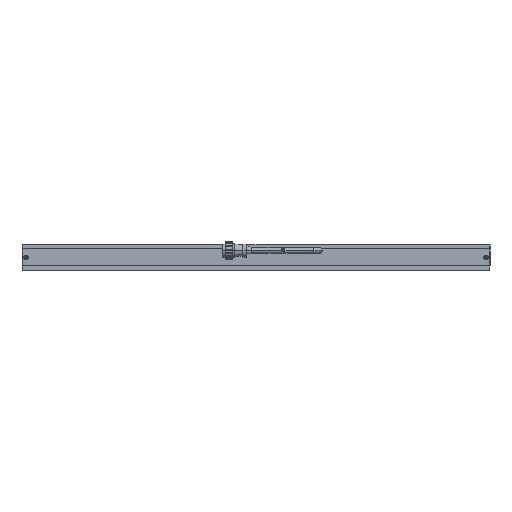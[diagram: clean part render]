
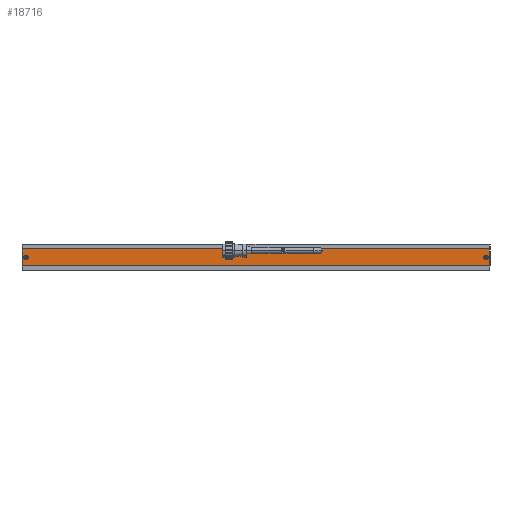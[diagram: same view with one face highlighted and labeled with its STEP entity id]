
A CAD part, left-side view. The second image highlights one B-rep face of the part: STEP entity #18716.
In plain terms, the highlighted planar face has unit normal (-1, 0, 0).
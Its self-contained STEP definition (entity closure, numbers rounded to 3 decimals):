
#365 = CARTESIAN_POINT ( 'NONE',  ( -207., 207., -2. ) ) ;
#391 = VERTEX_POINT ( 'NONE', #19744 ) ;
#883 = FACE_OUTER_BOUND ( 'NONE', #12594, .T. ) ;
#941 = EDGE_CURVE ( 'NONE', #2008, #8512, #10908, .T. ) ;
#1026 = ORIENTED_EDGE ( 'NONE', *, *, #19553, .T. ) ;
#1729 = ORIENTED_EDGE ( 'NONE', *, *, #16109, .F. ) ;
#1812 = CARTESIAN_POINT ( 'NONE',  ( -207., 0., -9.5 ) ) ;
#2008 = VERTEX_POINT ( 'NONE', #5033 ) ;
#2855 = CARTESIAN_POINT ( 'NONE',  ( -207., -58.25, -3.4 ) ) ;
#2877 = FACE_BOUND ( 'NONE', #7551, .T. ) ;
#2897 = DIRECTION ( 'NONE',  ( 1., 0., 0. ) ) ;
#2987 = DIRECTION ( 'NONE',  ( 0., 0., -1. ) ) ;
#3126 = CARTESIAN_POINT ( 'NONE',  ( -207., -205.5, -9.5 ) ) ;
#3200 = CARTESIAN_POINT ( 'NONE',  ( -207., -58.25, -3.4 ) ) ;
#3364 = EDGE_CURVE ( 'NONE', #5572, #19154, #4611, .T. ) ;
#3494 = PLANE ( 'NONE',  #10269 ) ;
#3666 = DIRECTION ( 'NONE',  ( -1., 0., 0. ) ) ;
#4344 = EDGE_CURVE ( 'NONE', #11292, #2008, #19353, .T. ) ;
#4374 = VECTOR ( 'NONE', #7656, 1000. ) ;
#4476 = ORIENTED_EDGE ( 'NONE', *, *, #941, .T. ) ;
#4610 = LINE ( 'NONE', #18348, #7374 ) ;
#4611 = CIRCLE ( 'NONE', #19621, 2. ) ;
#4871 = VERTEX_POINT ( 'NONE', #7064 ) ;
#4917 = CARTESIAN_POINT ( 'NONE',  ( -207., -201.5, -9.5 ) ) ;
#5033 = CARTESIAN_POINT ( 'NONE',  ( -207., 206.5, -17. ) ) ;
#5421 = DIRECTION ( 'NONE',  ( 0., 0., 1. ) ) ;
#5426 = ORIENTED_EDGE ( 'NONE', *, *, #16356, .F. ) ;
#5572 = VERTEX_POINT ( 'NONE', #4917 ) ;
#5658 = EDGE_CURVE ( 'NONE', #4871, #9804, #14040, .T. ) ;
#5877 = CARTESIAN_POINT ( 'NONE',  ( -207., -53.75, -3.4 ) ) ;
#6128 = DIRECTION ( 'NONE',  ( -1., 0., 0. ) ) ;
#6136 = DIRECTION ( 'NONE',  ( 0., 1., 0. ) ) ;
#6465 = DIRECTION ( 'NONE',  ( 0., 1., 0. ) ) ;
#6588 = VECTOR ( 'NONE', #7297, 1000. ) ;
#6821 = AXIS2_PLACEMENT_3D ( 'NONE', #13967, #7606, #18839 ) ;
#6908 = LINE ( 'NONE', #12435, #4374 ) ;
#7064 = CARTESIAN_POINT ( 'NONE',  ( -207., -206.5, -2. ) ) ;
#7067 = EDGE_CURVE ( 'NONE', #19154, #5572, #9986, .T. ) ;
#7297 = DIRECTION ( 'NONE',  ( 0., 0., -1. ) ) ;
#7374 = VECTOR ( 'NONE', #5421, 1000. ) ;
#7551 = EDGE_LOOP ( 'NONE', ( #5426, #1729 ) ) ;
#7606 = DIRECTION ( 'NONE',  ( -1., 0., 0. ) ) ;
#7656 = DIRECTION ( 'NONE',  ( 0., 0., 1. ) ) ;
#7864 = VECTOR ( 'NONE', #20339, 1000. ) ;
#8023 = CIRCLE ( 'NONE', #12343, 2. ) ;
#8447 = VERTEX_POINT ( 'NONE', #10598 ) ;
#8512 = VERTEX_POINT ( 'NONE', #12493 ) ;
#8542 = DIRECTION ( 'NONE',  ( 0., 1., 0. ) ) ;
#8552 = VERTEX_POINT ( 'NONE', #2855 ) ;
#8925 = FACE_BOUND ( 'NONE', #13579, .T. ) ;
#9008 = ORIENTED_EDGE ( 'NONE', *, *, #11710, .T. ) ;
#9804 = VERTEX_POINT ( 'NONE', #19473 ) ;
#9810 = VECTOR ( 'NONE', #18005, 1000. ) ;
#9986 = CIRCLE ( 'NONE', #6821, 2. ) ;
#10141 = VERTEX_POINT ( 'NONE', #5877 ) ;
#10269 = AXIS2_PLACEMENT_3D ( 'NONE', #1812, #14724, #6465 ) ;
#10598 = CARTESIAN_POINT ( 'NONE',  ( -207., -53.75, -2. ) ) ;
#10908 = LINE ( 'NONE', #10995, #16884 ) ;
#10995 = CARTESIAN_POINT ( 'NONE',  ( -207., 207., -17. ) ) ;
#11292 = VERTEX_POINT ( 'NONE', #15792 ) ;
#11383 = ORIENTED_EDGE ( 'NONE', *, *, #12362, .T. ) ;
#11626 = CARTESIAN_POINT ( 'NONE',  ( -207., 203.5, -9.5 ) ) ;
#11666 = LINE ( 'NONE', #3200, #16645 ) ;
#11710 = EDGE_CURVE ( 'NONE', #10141, #8447, #4610, .T. ) ;
#12343 = AXIS2_PLACEMENT_3D ( 'NONE', #11626, #3666, #8542 ) ;
#12362 = EDGE_CURVE ( 'NONE', #8447, #11292, #14604, .T. ) ;
#12435 = CARTESIAN_POINT ( 'NONE',  ( -207., -206.5, -2. ) ) ;
#12468 = CARTESIAN_POINT ( 'NONE',  ( -207., -203.5, -9.5 ) ) ;
#12493 = CARTESIAN_POINT ( 'NONE',  ( -207., -206.5, -17. ) ) ;
#12594 = EDGE_LOOP ( 'NONE', ( #1026, #9008, #11383, #20265, #4476, #15766, #13473, #18546 ) ) ;
#12687 = DIRECTION ( 'NONE',  ( -1., 0., 0. ) ) ;
#13473 = ORIENTED_EDGE ( 'NONE', *, *, #5658, .T. ) ;
#13579 = EDGE_LOOP ( 'NONE', ( #15312, #13615 ) ) ;
#13615 = ORIENTED_EDGE ( 'NONE', *, *, #7067, .F. ) ;
#13776 = CIRCLE ( 'NONE', #14466, 2. ) ;
#13878 = CIRCLE ( 'NONE', #19377, 2.25 ) ;
#13967 = CARTESIAN_POINT ( 'NONE',  ( -207., -203.5, -9.5 ) ) ;
#14040 = LINE ( 'NONE', #365, #9810 ) ;
#14466 = AXIS2_PLACEMENT_3D ( 'NONE', #15733, #12687, #15879 ) ;
#14604 = LINE ( 'NONE', #15611, #7864 ) ;
#14724 = DIRECTION ( 'NONE',  ( -1., 0., 0. ) ) ;
#15135 = CARTESIAN_POINT ( 'NONE',  ( -207., 206.5, -17. ) ) ;
#15312 = ORIENTED_EDGE ( 'NONE', *, *, #3364, .F. ) ;
#15393 = CARTESIAN_POINT ( 'NONE',  ( -207., -56., -3.4 ) ) ;
#15611 = CARTESIAN_POINT ( 'NONE',  ( -207., 207., -2. ) ) ;
#15733 = CARTESIAN_POINT ( 'NONE',  ( -207., 203.5, -9.5 ) ) ;
#15766 = ORIENTED_EDGE ( 'NONE', *, *, #18966, .T. ) ;
#15792 = CARTESIAN_POINT ( 'NONE',  ( -207., 206.5, -2. ) ) ;
#15879 = DIRECTION ( 'NONE',  ( 0., 1., 0. ) ) ;
#16109 = EDGE_CURVE ( 'NONE', #391, #17504, #13776, .T. ) ;
#16356 = EDGE_CURVE ( 'NONE', #17504, #391, #8023, .T. ) ;
#16645 = VECTOR ( 'NONE', #2987, 1000. ) ;
#16884 = VECTOR ( 'NONE', #18994, 1000. ) ;
#17504 = VERTEX_POINT ( 'NONE', #18521 ) ;
#18005 = DIRECTION ( 'NONE',  ( 0., 1., 0. ) ) ;
#18348 = CARTESIAN_POINT ( 'NONE',  ( -207., -53.75, -2. ) ) ;
#18521 = CARTESIAN_POINT ( 'NONE',  ( -207., 205.5, -9.5 ) ) ;
#18546 = ORIENTED_EDGE ( 'NONE', *, *, #19165, .T. ) ;
#18716 = ADVANCED_FACE ( 'NONE', ( #883, #8925, #2877 ), #3494, .T. ) ;
#18790 = DIRECTION ( 'NONE',  ( 0., 1., 0. ) ) ;
#18839 = DIRECTION ( 'NONE',  ( 0., 1., 0. ) ) ;
#18966 = EDGE_CURVE ( 'NONE', #8512, #4871, #6908, .T. ) ;
#18994 = DIRECTION ( 'NONE',  ( 0., -1., 0. ) ) ;
#19154 = VERTEX_POINT ( 'NONE', #3126 ) ;
#19165 = EDGE_CURVE ( 'NONE', #9804, #8552, #11666, .T. ) ;
#19353 = LINE ( 'NONE', #15135, #6588 ) ;
#19377 = AXIS2_PLACEMENT_3D ( 'NONE', #15393, #2897, #6136 ) ;
#19473 = CARTESIAN_POINT ( 'NONE',  ( -207., -58.25, -2. ) ) ;
#19553 = EDGE_CURVE ( 'NONE', #8552, #10141, #13878, .T. ) ;
#19621 = AXIS2_PLACEMENT_3D ( 'NONE', #12468, #6128, #18790 ) ;
#19744 = CARTESIAN_POINT ( 'NONE',  ( -207., 201.5, -9.5 ) ) ;
#20265 = ORIENTED_EDGE ( 'NONE', *, *, #4344, .T. ) ;
#20339 = DIRECTION ( 'NONE',  ( 0., 1., 0. ) ) ;
